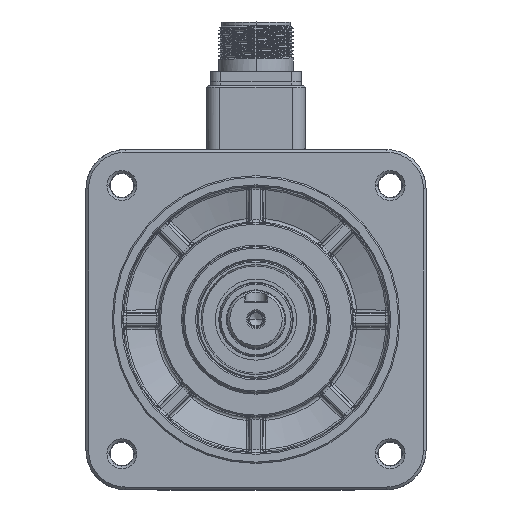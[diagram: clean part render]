
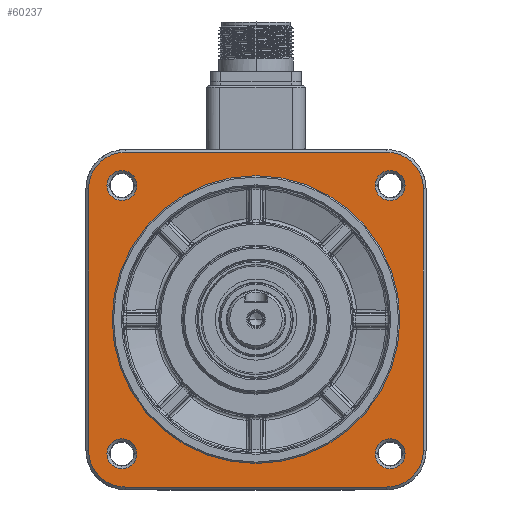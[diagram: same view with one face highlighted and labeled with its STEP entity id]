
A CAD part, top view. The second image highlights one B-rep face of the part: STEP entity #60237.
In plain terms, the highlighted planar face has unit normal (0, 0, 1).
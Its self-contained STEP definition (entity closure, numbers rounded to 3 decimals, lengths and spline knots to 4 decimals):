
#20565=CARTESIAN_POINT('',(-1.9685,1.9685,
2.8937));
#20566=DIRECTION('',(0.,0.,1.));
#20567=DIRECTION('',(0.,1.,0.));
#20568=AXIS2_PLACEMENT_3D('',#20565,#20566,#20567);
#20570=DIRECTION('',(-1.,0.,0.));
#20571=VECTOR('',#20570,3.937);
#20572=CARTESIAN_POINT('',(1.9685,2.519,2.8937));
#20573=LINE('',#20572,#20571);
#20574=CARTESIAN_POINT('',(1.9685,1.9685,2.8937));
#20575=DIRECTION('',(0.,0.,1.));
#20576=DIRECTION('',(1.,0.,0.));
#20577=AXIS2_PLACEMENT_3D('',#20574,#20575,#20576);
#20579=DIRECTION('',(0.,1.,0.));
#20580=VECTOR('',#20579,3.937);
#20581=CARTESIAN_POINT('',(2.519,-1.9685,
2.8937));
#20582=LINE('',#20581,#20580);
#20583=CARTESIAN_POINT('',(1.9685,-1.9685,
2.8937));
#20584=DIRECTION('',(0.,0.,1.));
#20585=DIRECTION('',(0.,-1.,0.));
#20586=AXIS2_PLACEMENT_3D('',#20583,#20584,#20585);
#20588=DIRECTION('',(1.,0.,0.));
#20589=VECTOR('',#20588,3.937);
#20590=CARTESIAN_POINT('',(-1.9685,-2.519,
2.8937));
#20591=LINE('',#20590,#20589);
#20592=CARTESIAN_POINT('',(-1.9685,-1.9685,
2.8937));
#20593=DIRECTION('',(0.,0.,1.));
#20594=DIRECTION('',(-1.,0.,0.));
#20595=AXIS2_PLACEMENT_3D('',#20592,#20593,#20594);
#20597=DIRECTION('',(0.,-1.,0.));
#20598=VECTOR('',#20597,3.937);
#20599=CARTESIAN_POINT('',(-2.519,1.9685,
2.8937));
#20600=LINE('',#20599,#20598);
#20601=CARTESIAN_POINT('',(-2.0183,2.0183,
2.8937));
#20602=DIRECTION('',(0.,0.,-1.));
#20603=DIRECTION('',(1.,0.,0.));
#20604=AXIS2_PLACEMENT_3D('',#20601,#20602,#20603);
#20606=CARTESIAN_POINT('',(-2.0183,2.0183,
2.8937));
#20607=DIRECTION('',(0.,0.,-1.));
#20608=DIRECTION('',(-1.,0.,0.));
#20609=AXIS2_PLACEMENT_3D('',#20606,#20607,#20608);
#20611=CARTESIAN_POINT('',(2.0183,2.0183,2.8937));
#20612=DIRECTION('',(0.,0.,-1.));
#20613=DIRECTION('',(-1.,0.,0.));
#20614=AXIS2_PLACEMENT_3D('',#20611,#20612,#20613);
#20616=CARTESIAN_POINT('',(2.0183,2.0183,2.8937));
#20617=DIRECTION('',(0.,0.,-1.));
#20618=DIRECTION('',(1.,0.,0.));
#20619=AXIS2_PLACEMENT_3D('',#20616,#20617,#20618);
#20621=CARTESIAN_POINT('',(2.0183,-2.0183,
2.8937));
#20622=DIRECTION('',(0.,0.,-1.));
#20623=DIRECTION('',(1.,0.,0.));
#20624=AXIS2_PLACEMENT_3D('',#20621,#20622,#20623);
#20626=CARTESIAN_POINT('',(2.0183,-2.0183,
2.8937));
#20627=DIRECTION('',(0.,0.,-1.));
#20628=DIRECTION('',(-1.,0.,0.));
#20629=AXIS2_PLACEMENT_3D('',#20626,#20627,#20628);
#20631=CARTESIAN_POINT('',(-2.0183,-2.0183,
2.8937));
#20632=DIRECTION('',(0.,0.,-1.));
#20633=DIRECTION('',(1.,0.,0.));
#20634=AXIS2_PLACEMENT_3D('',#20631,#20632,#20633);
#20636=CARTESIAN_POINT('',(-2.0183,-2.0183,
2.8937));
#20637=DIRECTION('',(0.,0.,-1.));
#20638=DIRECTION('',(-1.,0.,0.));
#20639=AXIS2_PLACEMENT_3D('',#20636,#20637,#20638);
#20762=CARTESIAN_POINT('',(0.,0.,2.8937));
#20763=DIRECTION('',(0.,0.,-1.));
#20764=DIRECTION('',(0.,1.,0.));
#20765=AXIS2_PLACEMENT_3D('',#20762,#20763,#20764);
#20804=CARTESIAN_POINT('',(0.,0.,2.8937));
#20805=DIRECTION('',(0.,0.,1.));
#20806=DIRECTION('',(0.,1.,0.));
#20807=AXIS2_PLACEMENT_3D('',#20804,#20805,#20806);
#26145=CARTESIAN_POINT('',(0.,2.1654,2.8937));
#26146=CARTESIAN_POINT('',(0.,-2.1654,2.8937));
#26147=VERTEX_POINT('',#26145);
#26148=VERTEX_POINT('',#26146);
#26449=CARTESIAN_POINT('',(-1.7932,2.0183,
2.8937));
#26450=CARTESIAN_POINT('',(-2.2434,2.0183,
2.8937));
#26451=VERTEX_POINT('',#26449);
#26452=VERTEX_POINT('',#26450);
#26457=CARTESIAN_POINT('',(-1.9685,2.519,
2.8937));
#26458=CARTESIAN_POINT('',(-2.519,1.9685,
2.8937));
#26459=VERTEX_POINT('',#26457);
#26460=VERTEX_POINT('',#26458);
#26465=CARTESIAN_POINT('',(-2.519,-1.9685,
2.8937));
#26466=VERTEX_POINT('',#26465);
#26469=CARTESIAN_POINT('',(-1.9685,-2.519,
2.8937));
#26470=VERTEX_POINT('',#26469);
#26473=CARTESIAN_POINT('',(1.9685,-2.519,
2.8937));
#26474=VERTEX_POINT('',#26473);
#26477=CARTESIAN_POINT('',(2.519,-1.9685,
2.8937));
#26478=VERTEX_POINT('',#26477);
#26481=CARTESIAN_POINT('',(2.519,1.9685,2.8937));
#26482=VERTEX_POINT('',#26481);
#26485=CARTESIAN_POINT('',(1.9685,2.519,2.8937));
#26486=VERTEX_POINT('',#26485);
#26489=CARTESIAN_POINT('',(1.7932,2.0183,2.8937));
#26490=CARTESIAN_POINT('',(2.2434,2.0183,2.8937));
#26491=VERTEX_POINT('',#26489);
#26492=VERTEX_POINT('',#26490);
#26497=CARTESIAN_POINT('',(2.2434,-2.0183,
2.8937));
#26498=CARTESIAN_POINT('',(1.7932,-2.0183,
2.8937));
#26499=VERTEX_POINT('',#26497);
#26500=VERTEX_POINT('',#26498);
#26505=CARTESIAN_POINT('',(-1.7932,-2.0183,
2.8937));
#26506=CARTESIAN_POINT('',(-2.2434,-2.0183,
2.8937));
#26507=VERTEX_POINT('',#26505);
#26508=VERTEX_POINT('',#26506);
#60185=CARTESIAN_POINT('',(0.,0.,2.8937));
#60186=DIRECTION('',(0.,0.,-1.));
#60187=DIRECTION('',(0.,-1.,0.));
#60188=AXIS2_PLACEMENT_3D('',#60185,#60186,#60187);
#60189=PLANE('',#60188);
#60191=ORIENTED_EDGE('',*,*,#60190,.F.);
#60193=ORIENTED_EDGE('',*,*,#60192,.F.);
#60195=ORIENTED_EDGE('',*,*,#60194,.F.);
#60197=ORIENTED_EDGE('',*,*,#60196,.F.);
#60199=ORIENTED_EDGE('',*,*,#60198,.F.);
#60201=ORIENTED_EDGE('',*,*,#60200,.F.);
#60203=ORIENTED_EDGE('',*,*,#60202,.F.);
#60205=ORIENTED_EDGE('',*,*,#60204,.F.);
#60206=EDGE_LOOP('',(#60191,#60193,#60195,#60197,#60199,#60201,#60203,#60205));
#60207=FACE_OUTER_BOUND('',#60206,.F.);
#60209=ORIENTED_EDGE('',*,*,#60208,.F.);
#60211=ORIENTED_EDGE('',*,*,#60210,.T.);
#60212=EDGE_LOOP('',(#60209,#60211));
#60213=FACE_BOUND('',#60212,.F.);
#60215=ORIENTED_EDGE('',*,*,#60214,.F.);
#60217=ORIENTED_EDGE('',*,*,#60216,.F.);
#60218=EDGE_LOOP('',(#60215,#60217));
#60219=FACE_BOUND('',#60218,.F.);
#60221=ORIENTED_EDGE('',*,*,#60220,.F.);
#60222=ORIENTED_EDGE('',*,*,#60175,.F.);
#60223=EDGE_LOOP('',(#60221,#60222));
#60224=FACE_BOUND('',#60223,.F.);
#60226=ORIENTED_EDGE('',*,*,#60225,.F.);
#60228=ORIENTED_EDGE('',*,*,#60227,.F.);
#60229=EDGE_LOOP('',(#60226,#60228));
#60230=FACE_BOUND('',#60229,.F.);
#60232=ORIENTED_EDGE('',*,*,#60231,.F.);
#60234=ORIENTED_EDGE('',*,*,#60233,.F.);
#60235=EDGE_LOOP('',(#60232,#60234));
#60236=FACE_BOUND('',#60235,.F.);
#60237=ADVANCED_FACE('',(#60207,#60213,#60219,#60224,#60230,#60236),#60189,.F.);
#20569=CIRCLE('',#20568,0.5505);
#20578=CIRCLE('',#20577,0.5505);
#20587=CIRCLE('',#20586,0.5505);
#20596=CIRCLE('',#20595,0.5505);
#20605=CIRCLE('',#20604,0.2251);
#20610=CIRCLE('',#20609,0.2251);
#20615=CIRCLE('',#20614,0.2251);
#20620=CIRCLE('',#20619,0.2251);
#20625=CIRCLE('',#20624,0.2251);
#20630=CIRCLE('',#20629,0.2251);
#20635=CIRCLE('',#20634,0.2251);
#20640=CIRCLE('',#20639,0.2251);
#20766=CIRCLE('',#20765,2.1654);
#20808=CIRCLE('',#20807,2.1654);
#60175=EDGE_CURVE('',#26492,#26491,#20620,.T.);
#60190=EDGE_CURVE('',#26459,#26460,#20569,.T.);
#60192=EDGE_CURVE('',#26486,#26459,#20573,.T.);
#60194=EDGE_CURVE('',#26482,#26486,#20578,.T.);
#60196=EDGE_CURVE('',#26478,#26482,#20582,.T.);
#60198=EDGE_CURVE('',#26474,#26478,#20587,.T.);
#60200=EDGE_CURVE('',#26470,#26474,#20591,.T.);
#60202=EDGE_CURVE('',#26466,#26470,#20596,.T.);
#60204=EDGE_CURVE('',#26460,#26466,#20600,.T.);
#60208=EDGE_CURVE('',#26147,#26148,#20766,.T.);
#60210=EDGE_CURVE('',#26147,#26148,#20808,.T.);
#60214=EDGE_CURVE('',#26451,#26452,#20605,.T.);
#60216=EDGE_CURVE('',#26452,#26451,#20610,.T.);
#60220=EDGE_CURVE('',#26491,#26492,#20615,.T.);
#60225=EDGE_CURVE('',#26499,#26500,#20625,.T.);
#60227=EDGE_CURVE('',#26500,#26499,#20630,.T.);
#60231=EDGE_CURVE('',#26507,#26508,#20635,.T.);
#60233=EDGE_CURVE('',#26508,#26507,#20640,.T.);
